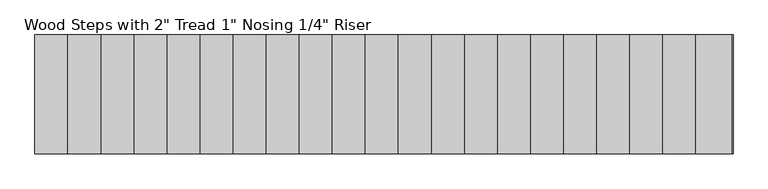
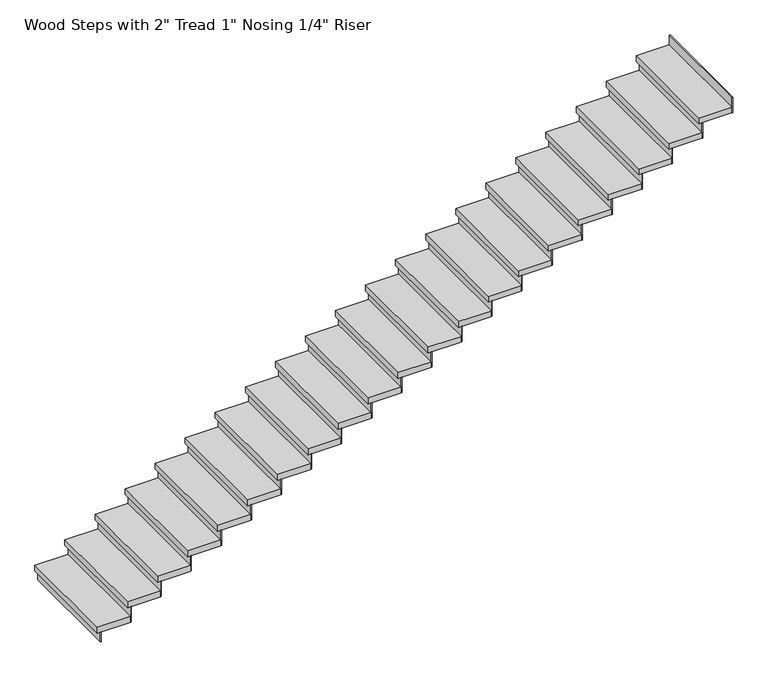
"""IFC4 building model written with IfcOpenShell, lengths in millimetres: stair flight geometry."""

from ifc_helpers import new_model, si_unit, frame, origin, origin_with_axes, place, context, project, spatial, polyline, outline, extrude, source, transform, mapped, element, save


def stair_flight_52e825a6(model_context):
    return source(origin(), model_context, "Body", "SweptSolid", [
        extrude(outline(polyline([(277.2114578, 6638.322839), (270.8614578, 6638.322839), (270.8614578, 7552.722839), (277.2114578, 7552.722839), (277.2114578, 6638.322839)])), origin_with_axes(), (0.0, 0.0, 1.0), 87.7454545),
        extrude(outline(polyline([(524.8614578, 7552.722839), (524.8614578, 6638.322839), (245.4614578, 6638.322839), (245.4614578, 7552.722839), (524.8614578, 7552.722839)])), frame((0.0, 0.0, 87.7454545), z_axis=(0.0, 0.0, 1.0), x_axis=(1.0, 0.0, 0.0)), (0.0, 0.0, 1.0), 50.8),
        extrude(outline(polyline([(531.2114578, 6638.322839), (524.8614578, 6638.322839), (524.8614578, 7552.722839), (531.2114578, 7552.722839), (531.2114578, 6638.322839)])), frame((0.0, 0.0, 87.7454545), z_axis=(0.0, 0.0, 1.0), x_axis=(1.0, 0.0, 0.0)), (0.0, 0.0, 1.0), 138.5454545),
        extrude(outline(polyline([(778.8614578, 7552.722839), (778.8614578, 6638.322839), (499.4614578, 6638.322839), (499.4614578, 7552.722839), (778.8614578, 7552.722839)])), frame((0.0, 0.0, 226.2909091), z_axis=(0.0, 0.0, 1.0), x_axis=(1.0, 0.0, 0.0)), (0.0, 0.0, 1.0), 50.8),
        extrude(outline(polyline([(785.2114578, 6638.322839), (778.8614578, 6638.322839), (778.8614578, 7552.722839), (785.2114578, 7552.722839), (785.2114578, 6638.322839)])), frame((0.0, 0.0, 226.2909091), z_axis=(0.0, 0.0, 1.0), x_axis=(1.0, 0.0, 0.0)), (0.0, 0.0, 1.0), 138.5454545),
        extrude(outline(polyline([(1032.8614578, 7552.722839), (1032.8614578, 6638.322839), (753.4614578, 6638.322839), (753.4614578, 7552.722839), (1032.8614578, 7552.722839)])), frame((0.0, 0.0, 364.8363636), z_axis=(0.0, 0.0, 1.0), x_axis=(1.0, 0.0, 0.0)), (0.0, 0.0, 1.0), 50.8),
        extrude(outline(polyline([(1039.2114578, 6638.322839), (1032.8614578, 6638.322839), (1032.8614578, 7552.722839), (1039.2114578, 7552.722839), (1039.2114578, 6638.322839)])), frame((0.0, 0.0, 364.8363636), z_axis=(0.0, 0.0, 1.0), x_axis=(1.0, 0.0, 0.0)), (0.0, 0.0, 1.0), 138.5454545),
        extrude(outline(polyline([(1286.8614578, 7552.722839), (1286.8614578, 6638.322839), (1007.4614578, 6638.322839), (1007.4614578, 7552.722839), (1286.8614578, 7552.722839)])), frame((0.0, 0.0, 503.3818182), z_axis=(0.0, 0.0, 1.0), x_axis=(1.0, 0.0, 0.0)), (0.0, 0.0, 1.0), 50.8),
        extrude(outline(polyline([(1293.2114578, 6638.322839), (1286.8614578, 6638.322839), (1286.8614578, 7552.722839), (1293.2114578, 7552.722839), (1293.2114578, 6638.322839)])), frame((0.0, 0.0, 503.3818182), z_axis=(0.0, 0.0, 1.0), x_axis=(1.0, 0.0, 0.0)), (0.0, 0.0, 1.0), 138.5454545),
        extrude(outline(polyline([(1540.8614578, 7552.722839), (1540.8614578, 6638.322839), (1261.4614578, 6638.322839), (1261.4614578, 7552.722839), (1540.8614578, 7552.722839)])), frame((0.0, 0.0, 641.9272727), z_axis=(0.0, 0.0, 1.0), x_axis=(1.0, 0.0, 0.0)), (0.0, 0.0, 1.0), 50.8),
        extrude(outline(polyline([(1547.2114578, 6638.322839), (1540.8614578, 6638.322839), (1540.8614578, 7552.722839), (1547.2114578, 7552.722839), (1547.2114578, 6638.322839)])), frame((0.0, 0.0, 641.9272727), z_axis=(0.0, 0.0, 1.0), x_axis=(1.0, 0.0, 0.0)), (0.0, 0.0, 1.0), 138.5454545),
        extrude(outline(polyline([(1794.8614578, 7552.722839), (1794.8614578, 6638.322839), (1515.4614578, 6638.322839), (1515.4614578, 7552.722839), (1794.8614578, 7552.722839)])), frame((0.0, 0.0, 780.4727273), z_axis=(0.0, 0.0, 1.0), x_axis=(1.0, 0.0, 0.0)), (0.0, 0.0, 1.0), 50.8),
        extrude(outline(polyline([(1801.2114578, 6638.322839), (1794.8614578, 6638.322839), (1794.8614578, 7552.722839), (1801.2114578, 7552.722839), (1801.2114578, 6638.322839)])), frame((0.0, 0.0, 780.4727273), z_axis=(0.0, 0.0, 1.0), x_axis=(1.0, 0.0, 0.0)), (0.0, 0.0, 1.0), 138.5454545),
        extrude(outline(polyline([(2048.8614578, 7552.722839), (2048.8614578, 6638.322839), (1769.4614578, 6638.322839), (1769.4614578, 7552.722839), (2048.8614578, 7552.722839)])), frame((0.0, 0.0, 919.0181818), z_axis=(0.0, 0.0, 1.0), x_axis=(1.0, 0.0, 0.0)), (0.0, 0.0, 1.0), 50.8),
        extrude(outline(polyline([(2055.2114578, 6638.322839), (2048.8614578, 6638.322839), (2048.8614578, 7552.722839), (2055.2114578, 7552.722839), (2055.2114578, 6638.322839)])), frame((0.0, 0.0, 919.0181818), z_axis=(0.0, 0.0, 1.0), x_axis=(1.0, 0.0, 0.0)), (0.0, 0.0, 1.0), 138.5454545),
        extrude(outline(polyline([(2302.8614578, 7552.722839), (2302.8614578, 6638.322839), (2023.4614578, 6638.322839), (2023.4614578, 7552.722839), (2302.8614578, 7552.722839)])), frame((0.0, 0.0, 1057.5636364), z_axis=(0.0, 0.0, 1.0), x_axis=(1.0, 0.0, 0.0)), (0.0, 0.0, 1.0), 50.8),
        extrude(outline(polyline([(2309.2114578, 6638.322839), (2302.8614578, 6638.322839), (2302.8614578, 7552.722839), (2309.2114578, 7552.722839), (2309.2114578, 6638.322839)])), frame((0.0, 0.0, 1057.5636364), z_axis=(0.0, 0.0, 1.0), x_axis=(1.0, 0.0, 0.0)), (0.0, 0.0, 1.0), 138.5454545),
        extrude(outline(polyline([(2556.8614578, 7552.722839), (2556.8614578, 6638.322839), (2277.4614578, 6638.322839), (2277.4614578, 7552.722839), (2556.8614578, 7552.722839)])), frame((0.0, 0.0, 1196.1090909), z_axis=(0.0, 0.0, 1.0), x_axis=(1.0, 0.0, 0.0)), (0.0, 0.0, 1.0), 50.8),
        extrude(outline(polyline([(2563.2114578, 6638.322839), (2556.8614578, 6638.322839), (2556.8614578, 7552.722839), (2563.2114578, 7552.722839), (2563.2114578, 6638.322839)])), frame((0.0, 0.0, 1196.1090909), z_axis=(0.0, 0.0, 1.0), x_axis=(1.0, 0.0, 0.0)), (0.0, 0.0, 1.0), 138.5454545),
        extrude(outline(polyline([(2810.8614578, 7552.722839), (2810.8614578, 6638.322839), (2531.4614578, 6638.322839), (2531.4614578, 7552.722839), (2810.8614578, 7552.722839)])), frame((0.0, 0.0, 1334.6545455), z_axis=(0.0, 0.0, 1.0), x_axis=(1.0, 0.0, 0.0)), (0.0, 0.0, 1.0), 50.8),
        extrude(outline(polyline([(2817.2114578, 6638.322839), (2810.8614578, 6638.322839), (2810.8614578, 7552.722839), (2817.2114578, 7552.722839), (2817.2114578, 6638.322839)])), frame((0.0, 0.0, 1334.6545455), z_axis=(0.0, 0.0, 1.0), x_axis=(1.0, 0.0, 0.0)), (0.0, 0.0, 1.0), 138.5454545),
        extrude(outline(polyline([(3064.8614578, 7552.722839), (3064.8614578, 6638.322839), (2785.4614578, 6638.322839), (2785.4614578, 7552.722839), (3064.8614578, 7552.722839)])), frame((0.0, 0.0, 1473.2), z_axis=(0.0, 0.0, 1.0), x_axis=(1.0, 0.0, 0.0)), (0.0, 0.0, 1.0), 50.8),
        extrude(outline(polyline([(3071.2114578, 6638.322839), (3064.8614578, 6638.322839), (3064.8614578, 7552.722839), (3071.2114578, 7552.722839), (3071.2114578, 6638.322839)])), frame((0.0, 0.0, 1473.2), z_axis=(0.0, 0.0, 1.0), x_axis=(1.0, 0.0, 0.0)), (0.0, 0.0, 1.0), 138.5454545),
        extrude(outline(polyline([(3318.8614578, 7552.722839), (3318.8614578, 6638.322839), (3039.4614578, 6638.322839), (3039.4614578, 7552.722839), (3318.8614578, 7552.722839)])), frame((0.0, 0.0, 1611.7454545), z_axis=(0.0, 0.0, 1.0), x_axis=(1.0, 0.0, 0.0)), (0.0, 0.0, 1.0), 50.8),
        extrude(outline(polyline([(3325.2114578, 6638.322839), (3318.8614578, 6638.322839), (3318.8614578, 7552.722839), (3325.2114578, 7552.722839), (3325.2114578, 6638.322839)])), frame((0.0, 0.0, 1611.7454545), z_axis=(0.0, 0.0, 1.0), x_axis=(1.0, 0.0, 0.0)), (0.0, 0.0, 1.0), 138.5454545),
        extrude(outline(polyline([(3572.8614578, 7552.722839), (3572.8614578, 6638.322839), (3293.4614578, 6638.322839), (3293.4614578, 7552.722839), (3572.8614578, 7552.722839)])), frame((0.0, 0.0, 1750.2909091), z_axis=(0.0, 0.0, 1.0), x_axis=(1.0, 0.0, 0.0)), (0.0, 0.0, 1.0), 50.8),
        extrude(outline(polyline([(3579.2114578, 6638.322839), (3572.8614578, 6638.322839), (3572.8614578, 7552.722839), (3579.2114578, 7552.722839), (3579.2114578, 6638.322839)])), frame((0.0, 0.0, 1750.2909091), z_axis=(0.0, 0.0, 1.0), x_axis=(1.0, 0.0, 0.0)), (0.0, 0.0, 1.0), 138.5454545),
        extrude(outline(polyline([(3826.8614578, 7552.722839), (3826.8614578, 6638.322839), (3547.4614578, 6638.322839), (3547.4614578, 7552.722839), (3826.8614578, 7552.722839)])), frame((0.0, 0.0, 1888.8363636), z_axis=(0.0, 0.0, 1.0), x_axis=(1.0, 0.0, 0.0)), (0.0, 0.0, 1.0), 50.8),
        extrude(outline(polyline([(3833.2114578, 6638.322839), (3826.8614578, 6638.322839), (3826.8614578, 7552.722839), (3833.2114578, 7552.722839), (3833.2114578, 6638.322839)])), frame((0.0, 0.0, 1888.8363636), z_axis=(0.0, 0.0, 1.0), x_axis=(1.0, 0.0, 0.0)), (0.0, 0.0, 1.0), 138.5454545),
        extrude(outline(polyline([(4080.8614578, 7552.722839), (4080.8614578, 6638.322839), (3801.4614578, 6638.322839), (3801.4614578, 7552.722839), (4080.8614578, 7552.722839)])), frame((0.0, 0.0, 2027.3818182), z_axis=(0.0, 0.0, 1.0), x_axis=(1.0, 0.0, 0.0)), (0.0, 0.0, 1.0), 50.8),
        extrude(outline(polyline([(4087.2114578, 6638.322839), (4080.8614578, 6638.322839), (4080.8614578, 7552.722839), (4087.2114578, 7552.722839), (4087.2114578, 6638.322839)])), frame((0.0, 0.0, 2027.3818182), z_axis=(0.0, 0.0, 1.0), x_axis=(1.0, 0.0, 0.0)), (0.0, 0.0, 1.0), 138.5454545),
        extrude(outline(polyline([(4334.8614578, 7552.722839), (4334.8614578, 6638.322839), (4055.4614578, 6638.322839), (4055.4614578, 7552.722839), (4334.8614578, 7552.722839)])), frame((0.0, 0.0, 2165.9272727), z_axis=(0.0, 0.0, 1.0), x_axis=(1.0, 0.0, 0.0)), (0.0, 0.0, 1.0), 50.8),
        extrude(outline(polyline([(4341.2114578, 6638.322839), (4334.8614578, 6638.322839), (4334.8614578, 7552.722839), (4341.2114578, 7552.722839), (4341.2114578, 6638.322839)])), frame((0.0, 0.0, 2165.9272727), z_axis=(0.0, 0.0, 1.0), x_axis=(1.0, 0.0, 0.0)), (0.0, 0.0, 1.0), 138.5454545),
        extrude(outline(polyline([(4588.8614578, 7552.722839), (4588.8614578, 6638.322839), (4309.4614578, 6638.322839), (4309.4614578, 7552.722839), (4588.8614578, 7552.722839)])), frame((0.0, 0.0, 2304.4727273), z_axis=(0.0, 0.0, 1.0), x_axis=(1.0, 0.0, 0.0)), (0.0, 0.0, 1.0), 50.8),
        extrude(outline(polyline([(4595.2114578, 6638.322839), (4588.8614578, 6638.322839), (4588.8614578, 7552.722839), (4595.2114578, 7552.722839), (4595.2114578, 6638.322839)])), frame((0.0, 0.0, 2304.4727273), z_axis=(0.0, 0.0, 1.0), x_axis=(1.0, 0.0, 0.0)), (0.0, 0.0, 1.0), 138.5454545),
        extrude(outline(polyline([(4842.8614578, 7552.722839), (4842.8614578, 6638.322839), (4563.4614578, 6638.322839), (4563.4614578, 7552.722839), (4842.8614578, 7552.722839)])), frame((0.0, 0.0, 2443.0181818), z_axis=(0.0, 0.0, 1.0), x_axis=(1.0, 0.0, 0.0)), (0.0, 0.0, 1.0), 50.8),
        extrude(outline(polyline([(4849.2114578, 6638.322839), (4842.8614578, 6638.322839), (4842.8614578, 7552.722839), (4849.2114578, 7552.722839), (4849.2114578, 6638.322839)])), frame((0.0, 0.0, 2443.0181818), z_axis=(0.0, 0.0, 1.0), x_axis=(1.0, 0.0, 0.0)), (0.0, 0.0, 1.0), 138.5454545),
        extrude(outline(polyline([(5096.8614578, 7552.722839), (5096.8614578, 6638.322839), (4817.4614578, 6638.322839), (4817.4614578, 7552.722839), (5096.8614578, 7552.722839)])), frame((0.0, 0.0, 2581.5636364), z_axis=(0.0, 0.0, 1.0), x_axis=(1.0, 0.0, 0.0)), (0.0, 0.0, 1.0), 50.8),
        extrude(outline(polyline([(5103.2114578, 6638.322839), (5096.8614578, 6638.322839), (5096.8614578, 7552.722839), (5103.2114578, 7552.722839), (5103.2114578, 6638.322839)])), frame((0.0, 0.0, 2581.5636364), z_axis=(0.0, 0.0, 1.0), x_axis=(1.0, 0.0, 0.0)), (0.0, 0.0, 1.0), 138.5454545),
        extrude(outline(polyline([(5350.8614578, 7552.722839), (5350.8614578, 6638.322839), (5071.4614578, 6638.322839), (5071.4614578, 7552.722839), (5350.8614578, 7552.722839)])), frame((0.0, 0.0, 2720.1090909), z_axis=(0.0, 0.0, 1.0), x_axis=(1.0, 0.0, 0.0)), (0.0, 0.0, 1.0), 50.8),
        extrude(outline(polyline([(5357.2114578, 6638.322839), (5350.8614578, 6638.322839), (5350.8614578, 7552.722839), (5357.2114578, 7552.722839), (5357.2114578, 6638.322839)])), frame((0.0, 0.0, 2720.1090909), z_axis=(0.0, 0.0, 1.0), x_axis=(1.0, 0.0, 0.0)), (0.0, 0.0, 1.0), 138.5454545),
        extrude(outline(polyline([(5611.2114578, 6638.322839), (5604.8614578, 6638.322839), (5604.8614578, 7552.722839), (5611.2114578, 7552.722839), (5611.2114578, 6638.322839)])), frame((0.0, 0.0, 2858.6545455), z_axis=(0.0, 0.0, 1.0), x_axis=(1.0, 0.0, 0.0)), (0.0, 0.0, 1.0), 138.5454545),
        extrude(outline(polyline([(5604.8614578, 7552.722839), (5604.8614578, 6638.322839), (5325.4614578, 6638.322839), (5325.4614578, 7552.722839), (5604.8614578, 7552.722839)])), frame((0.0, 0.0, 2858.6545455), z_axis=(0.0, 0.0, 1.0), x_axis=(1.0, 0.0, 0.0)), (0.0, 0.0, 1.0), 50.8),
    ])


if __name__ == "__main__":
    model = new_model("IFC4")
    model_context = context("Model", 3, world=origin())
    ifc_project = project(units=[si_unit("LENGTHUNIT", "METRE", prefix="MILLI")], contexts=[model_context])
    site = spatial("IfcSite", under=ifc_project)
    building = spatial("IfcBuilding", under=site)
    placement = place(None, origin())
    stair_flight_shape = stair_flight_52e825a6(model_context)
    element("IfcStairFlight", 1, ObjectType="Wood Steps with 2\" Tread 1\" Nosing 1/4\" Riser", at=placement, inside=building, context=model_context, shape_type="MappedRepresentation", body=[
        mapped(stair_flight_shape, transform((0.0, 0.0, 0.0), x_axis=(1.0, 0.0, 0.0), y_axis=(0.0, 1.0, 0.0), z_axis=(0.0, 0.0, 1.0))),
    ])
    save(model, "model.ifc")
